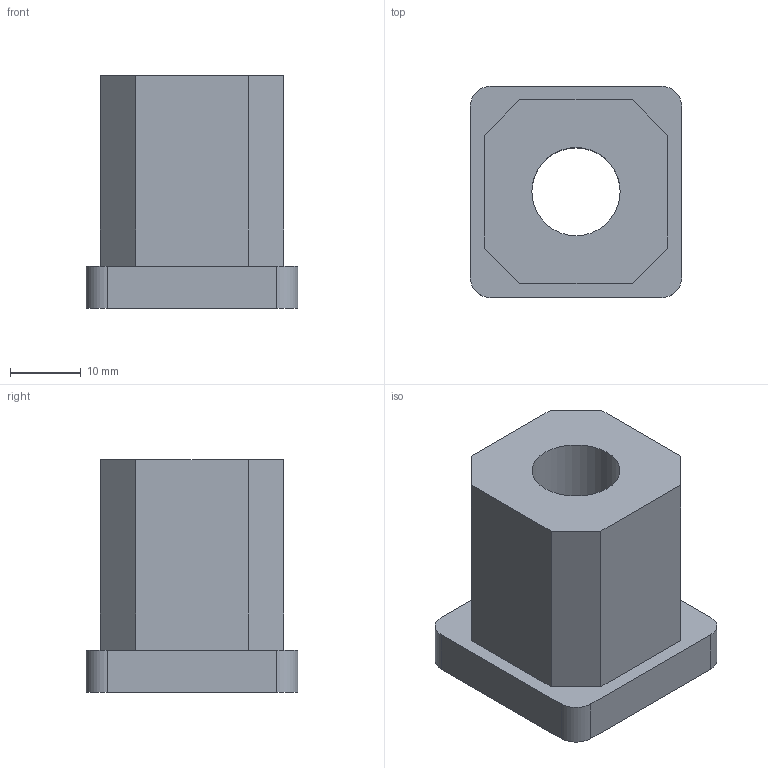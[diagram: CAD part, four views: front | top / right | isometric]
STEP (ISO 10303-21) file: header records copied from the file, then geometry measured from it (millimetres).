
FILE_DESCRIPTION (( 'STEP AP214' ), '1' );
FILE_NAME ('F21851.step', '2024-12-03T16:15:59', ( '' ), ( '' ), 'SwSTEP 2.0', 'SolidWorks 2023', '' );
FILE_SCHEMA (( 'AUTOMOTIVE_DESIGN' ));
Length unit declared in the file: millimetre
Products named in the file (1): F21851
Bounding box: 30 x 30 x 33 mm (x, y, z)
Volume: 18205.9 mm3; surface area: 6015.8 mm2
Topology: 1 solids, 1 shells, 20 faces, 52 edges, 35 vertices
Faces by surface type: plane 15, cylinder 5
Full cylindrical faces by diameter (mm): 12.5 x1
Entity records: 627 total; most frequent: CARTESIAN_POINT 105, DIRECTION 102, ORIENTED_EDGE 100, EDGE_CURVE 50, LINE 40, VECTOR 40, VERTEX_POINT 34, AXIS2_PLACEMENT_3D 31
